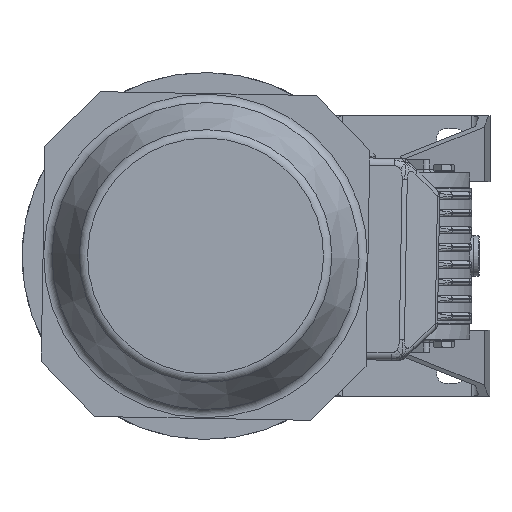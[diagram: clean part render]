
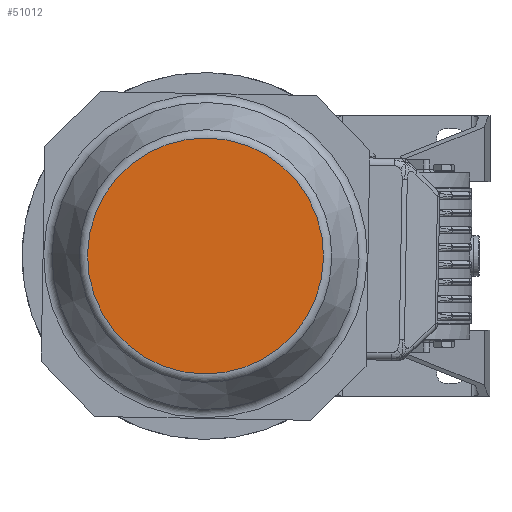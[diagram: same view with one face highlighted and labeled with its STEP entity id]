
A CAD part, left-side view. The second image highlights one B-rep face of the part: STEP entity #51012.
In plain terms, the highlighted planar face has unit normal (-1, 0, 0) as drawn and (1, 0, 0) by its records, which use the part's own axes.
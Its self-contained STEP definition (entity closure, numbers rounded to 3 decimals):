
#50989=CARTESIAN_POINT('',(282.,0.0,64.298));
#50990=VERTEX_POINT('',#50989);
#50991=CARTESIAN_POINT('',(282.,0.0,0.0));
#50992=DIRECTION('',(-1.0,0.0,0.0));
#50993=DIRECTION('',(0.0,0.0,-1.0));
#50994=AXIS2_PLACEMENT_3D('',#50991,#50992,#50993);
#50995=CIRCLE('',#50994,64.298);
#50996=EDGE_CURVE('',#50990,#50990,#50995,.T.);
#51004=CARTESIAN_POINT('',(282.,0.0,33.75));
#51005=DIRECTION('',(1.0,0.0,0.0));
#51006=DIRECTION('',(0.0,0.0,-1.0));
#51007=AXIS2_PLACEMENT_3D('',#51004,#51005,#51006);
#51008=PLANE('',#51007);
#51009=ORIENTED_EDGE('',*,*,#50996,.F.);
#51010=EDGE_LOOP('',(#51009));
#51011=FACE_OUTER_BOUND('',#51010,.T.);
#51012=ADVANCED_FACE('',(#51011),#51008,.T.);
